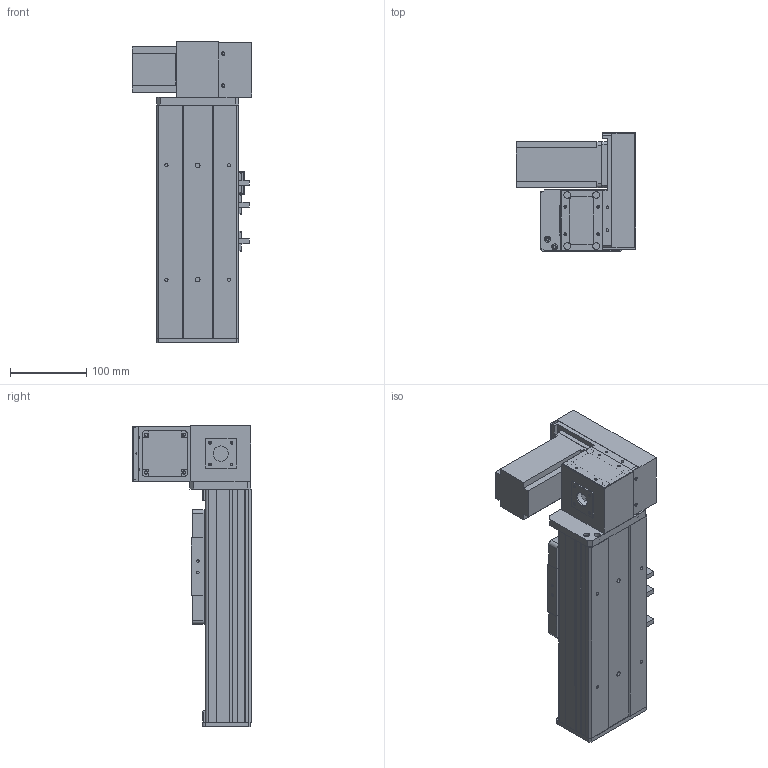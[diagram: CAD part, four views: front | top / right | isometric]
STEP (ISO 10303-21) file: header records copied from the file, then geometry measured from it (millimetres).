
FILE_DESCRIPTION (( 'STEP AP203' ), '1' );
FILE_NAME ('Y10CB-D90-S50-UR-P400W.STEP', '2020-02-16T02:52:58', ( '微软用户' ), ( '微软中国' ), 'SwSTEP 2.0', 'SolidWorks 2017', '' );
FILE_SCHEMA (( 'CONFIG_CONTROL_DESIGN' ));
Length unit declared in the file: millimetre
Products named in the file (18): 10CB-耜裔; Y135C-陔俋离換覜結え-; Y100-135俋离換覜ん--; Y10B--々湍喘謫眊--666; 0CB-雄赽釱---; 0B-埴倛裔啣; Y10B-耜蚾蟀諉啣----; 0Cb-俋欶---; 10CB-詩湍-; 00B-俋欶BM--; Y10B-々湍喘謫眊楊擘啣--; Y10CB- 掛极耜裔啣-毀---; Y10CB-D90-S50-UR-P400W; 0B-萇儂楊擘啣; Y10C---詩湍揤啣; san松下电机400不带刹车----; 10CB9-掛极; 0B-源倛裔啣
Assembly tree (21 placements, depth 2):
  Y10CB-D90-S50-UR-P400W
    0CB-雄赽釱---
    0Cb-俋欶---
    Y10B-々湍喘謫眊楊擘啣--
    0B-萇儂楊擘啣
    san松下电机400不带刹车----
    0B-源倛裔啣
    0B-埴倛裔啣
    10CB-詩湍-
    Y10CB- 掛极耜裔啣-毀---  x2
    Y10C---詩湍揤啣  x2
    10CB9-掛极
    10CB-耜裔
    Y135C-陔俋离換覜結え-
    Y100-135俋离換覜ん--  x3
    Y10B--々湍喘謫眊--666
    Y10B-耜蚾蟀諉啣----
    00B-俋欶BM--
Bounding box: 157 x 155.5 x 396 mm (x, y, z)
Volume: 1478241.7 mm3; surface area: 575148.4 mm2
Topology: 21 solids, 21 shells, 930 faces, 2443 edges, 1610 vertices
Faces by surface type: plane 467, cylinder 439, cone 24
Entity records: 28412 total; most frequent: CARTESIAN_POINT 4729, DIRECTION 4658, ORIENTED_EDGE 4356, EDGE_CURVE 2178, AXIS2_PLACEMENT_3D 1669, VERTEX_POINT 1436, VECTOR 1320, LINE 1320
